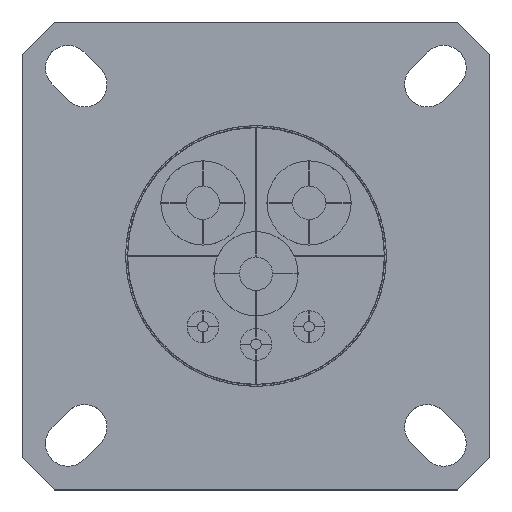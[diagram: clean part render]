
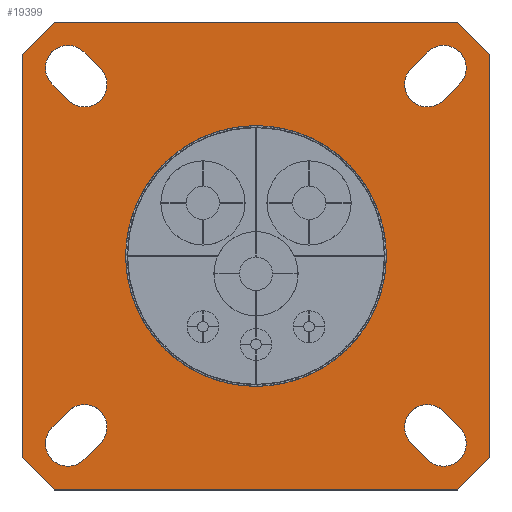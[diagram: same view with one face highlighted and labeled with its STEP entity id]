
A CAD part, top view. The second image highlights one B-rep face of the part: STEP entity #19399.
In plain terms, the highlighted planar face has unit normal (0, 0, 1).
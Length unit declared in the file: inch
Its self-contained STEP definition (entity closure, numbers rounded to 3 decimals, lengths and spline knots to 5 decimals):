
#6313=CARTESIAN_POINT('',(0.,0.,0.));
#6314=DIRECTION('',(0.,0.,1.));
#6315=DIRECTION('',(1.,0.,0.));
#6316=AXIS2_PLACEMENT_3D('',#6313,#6314,#6315);
#8366=DIRECTION('',(0.707,0.707,0.));
#8367=VECTOR('',#8366,0.128);
#8368=CARTESIAN_POINT('',(-0.6615,0.57099,0.));
#8369=LINE('',#8368,#8367);
#8370=DIRECTION('',(1.,0.,0.));
#8371=VECTOR('',#8370,1.14198);
#8372=CARTESIAN_POINT('',(-0.57099,0.6615,0.));
#8373=LINE('',#8372,#8371);
#8374=DIRECTION('',(0.707,-0.707,0.));
#8375=VECTOR('',#8374,0.128);
#8376=CARTESIAN_POINT('',(0.57099,0.6615,0.));
#8377=LINE('',#8376,#8375);
#8378=DIRECTION('',(0.,-1.,0.));
#8379=VECTOR('',#8378,1.14198);
#8380=CARTESIAN_POINT('',(0.6615,0.57099,0.));
#8381=LINE('',#8380,#8379);
#8382=DIRECTION('',(-0.707,-0.707,0.));
#8383=VECTOR('',#8382,0.128);
#8384=CARTESIAN_POINT('',(0.6615,-0.57099,0.));
#8385=LINE('',#8384,#8383);
#8386=DIRECTION('',(-1.,0.,0.));
#8387=VECTOR('',#8386,1.14198);
#8388=CARTESIAN_POINT('',(0.57099,-0.6615,0.));
#8389=LINE('',#8388,#8387);
#8390=DIRECTION('',(-0.707,0.707,0.));
#8391=VECTOR('',#8390,0.128);
#8392=CARTESIAN_POINT('',(-0.57099,-0.6615,0.));
#8393=LINE('',#8392,#8391);
#8394=DIRECTION('',(0.,1.,0.));
#8395=VECTOR('',#8394,1.14198);
#8396=CARTESIAN_POINT('',(-0.6615,-0.57099,0.));
#8397=LINE('',#8396,#8395);
#8398=DIRECTION('',(-0.707,-0.707,0.));
#8399=VECTOR('',#8398,0.06576);
#8400=CARTESIAN_POINT('',(-0.53025,-0.43875,0.));
#8401=LINE('',#8400,#8399);
#8402=CARTESIAN_POINT('',(-0.5315,-0.5305,0.));
#8403=DIRECTION('',(0.,0.,1.));
#8404=DIRECTION('',(-0.707,0.707,0.));
#8405=AXIS2_PLACEMENT_3D('',#8402,#8403,#8404);
#8407=DIRECTION('',(0.707,0.707,0.));
#8408=VECTOR('',#8407,0.06576);
#8409=CARTESIAN_POINT('',(-0.48625,-0.57575,0.));
#8410=LINE('',#8409,#8408);
#8411=CARTESIAN_POINT('',(-0.485,-0.484,0.));
#8412=DIRECTION('',(0.,0.,1.));
#8413=DIRECTION('',(0.707,-0.707,0.));
#8414=AXIS2_PLACEMENT_3D('',#8411,#8412,#8413);
#8416=DIRECTION('',(0.707,-0.707,0.));
#8417=VECTOR('',#8416,0.06576);
#8418=CARTESIAN_POINT('',(-0.57675,0.48625,0.));
#8419=LINE('',#8418,#8417);
#8420=CARTESIAN_POINT('',(-0.485,0.485,0.));
#8421=DIRECTION('',(0.,0.,1.));
#8422=DIRECTION('',(-0.707,-0.707,0.));
#8423=AXIS2_PLACEMENT_3D('',#8420,#8421,#8422);
#8425=DIRECTION('',(-0.707,0.707,0.));
#8426=VECTOR('',#8425,0.06576);
#8427=CARTESIAN_POINT('',(-0.43975,0.53025,0.));
#8428=LINE('',#8427,#8426);
#8429=CARTESIAN_POINT('',(-0.5315,0.5315,0.));
#8430=DIRECTION('',(0.,0.,1.));
#8431=DIRECTION('',(0.707,0.707,0.));
#8432=AXIS2_PLACEMENT_3D('',#8429,#8430,#8431);
#8434=DIRECTION('',(-0.707,-0.707,0.));
#8435=VECTOR('',#8434,0.06576);
#8436=CARTESIAN_POINT('',(0.48525,0.57675,0.));
#8437=LINE('',#8436,#8435);
#8438=CARTESIAN_POINT('',(0.484,0.485,0.));
#8439=DIRECTION('',(0.,0.,1.));
#8440=DIRECTION('',(-0.707,0.707,0.));
#8441=AXIS2_PLACEMENT_3D('',#8438,#8439,#8440);
#8443=DIRECTION('',(0.707,0.707,0.));
#8444=VECTOR('',#8443,0.06576);
#8445=CARTESIAN_POINT('',(0.52925,0.43975,0.));
#8446=LINE('',#8445,#8444);
#8447=CARTESIAN_POINT('',(0.5305,0.5315,0.));
#8448=DIRECTION('',(0.,0.,1.));
#8449=DIRECTION('',(0.707,-0.707,0.));
#8450=AXIS2_PLACEMENT_3D('',#8447,#8448,#8449);
#8452=CARTESIAN_POINT('',(0.484,-0.484,0.));
#8453=DIRECTION('',(0.,0.,1.));
#8454=DIRECTION('',(0.707,0.707,0.));
#8455=AXIS2_PLACEMENT_3D('',#8452,#8453,#8454);
#8457=DIRECTION('',(0.707,-0.707,0.));
#8458=VECTOR('',#8457,0.06576);
#8459=CARTESIAN_POINT('',(0.43875,-0.52925,0.));
#8460=LINE('',#8459,#8458);
#8461=CARTESIAN_POINT('',(0.5305,-0.5305,0.));
#8462=DIRECTION('',(0.,0.,1.));
#8463=DIRECTION('',(-0.707,-0.707,0.));
#8464=AXIS2_PLACEMENT_3D('',#8461,#8462,#8463);
#8466=DIRECTION('',(-0.707,0.707,0.));
#8467=VECTOR('',#8466,0.06576);
#8468=CARTESIAN_POINT('',(0.57575,-0.48525,0.));
#8469=LINE('',#8468,#8467);
#8670=CARTESIAN_POINT('',(0.,0.,0.));
#8671=DIRECTION('',(0.,0.,1.));
#8672=DIRECTION('',(-1.,0.,0.));
#8673=AXIS2_PLACEMENT_3D('',#8670,#8671,#8672);
#15146=CARTESIAN_POINT('',(-0.6615,0.57099,0.));
#15147=CARTESIAN_POINT('',(-0.57099,0.6615,0.));
#15148=VERTEX_POINT('',#15146);
#15149=VERTEX_POINT('',#15147);
#15150=CARTESIAN_POINT('',(0.57099,0.6615,0.));
#15151=VERTEX_POINT('',#15150);
#15152=CARTESIAN_POINT('',(0.6615,0.57099,0.));
#15153=VERTEX_POINT('',#15152);
#15154=CARTESIAN_POINT('',(0.6615,-0.57099,0.));
#15155=VERTEX_POINT('',#15154);
#15156=CARTESIAN_POINT('',(0.57099,-0.6615,0.));
#15157=VERTEX_POINT('',#15156);
#15158=CARTESIAN_POINT('',(-0.57099,-0.6615,0.));
#15159=VERTEX_POINT('',#15158);
#15160=CARTESIAN_POINT('',(-0.6615,-0.57099,0.));
#15161=VERTEX_POINT('',#15160);
#15162=CARTESIAN_POINT('',(-0.53025,-0.43875,0.));
#15163=CARTESIAN_POINT('',(-0.57675,-0.48525,0.));
#15164=VERTEX_POINT('',#15162);
#15165=VERTEX_POINT('',#15163);
#15166=CARTESIAN_POINT('',(-0.48625,-0.57575,0.));
#15167=VERTEX_POINT('',#15166);
#15168=CARTESIAN_POINT('',(-0.43975,-0.52925,0.));
#15169=VERTEX_POINT('',#15168);
#15170=CARTESIAN_POINT('',(-0.57675,0.48625,0.));
#15171=CARTESIAN_POINT('',(-0.53025,0.43975,0.));
#15172=VERTEX_POINT('',#15170);
#15173=VERTEX_POINT('',#15171);
#15174=CARTESIAN_POINT('',(-0.43975,0.53025,0.));
#15175=VERTEX_POINT('',#15174);
#15176=CARTESIAN_POINT('',(-0.48625,0.57675,0.));
#15177=VERTEX_POINT('',#15176);
#15178=CARTESIAN_POINT('',(0.48525,0.57675,0.));
#15179=CARTESIAN_POINT('',(0.43875,0.53025,0.));
#15180=VERTEX_POINT('',#15178);
#15181=VERTEX_POINT('',#15179);
#15182=CARTESIAN_POINT('',(0.52925,0.43975,0.));
#15183=VERTEX_POINT('',#15182);
#15184=CARTESIAN_POINT('',(0.57575,0.48625,0.));
#15185=VERTEX_POINT('',#15184);
#15186=CARTESIAN_POINT('',(0.52925,-0.43875,0.));
#15187=CARTESIAN_POINT('',(0.43875,-0.52925,0.));
#15188=VERTEX_POINT('',#15186);
#15189=VERTEX_POINT('',#15187);
#15190=CARTESIAN_POINT('',(0.48525,-0.57575,0.));
#15191=VERTEX_POINT('',#15190);
#15192=CARTESIAN_POINT('',(0.57575,-0.48525,0.));
#15193=VERTEX_POINT('',#15192);
#15242=CARTESIAN_POINT('',(0.368,0.,0.));
#15243=CARTESIAN_POINT('',(-0.368,0.,0.));
#15244=VERTEX_POINT('',#15242);
#15245=VERTEX_POINT('',#15243);
#19331=CARTESIAN_POINT('',(0.,0.,0.));
#19332=DIRECTION('',(0.,0.,-1.));
#19333=DIRECTION('',(0.,-1.,0.));
#19334=AXIS2_PLACEMENT_3D('',#19331,#19332,#19333);
#19335=PLANE('',#19334);
#19337=ORIENTED_EDGE('',*,*,#19336,.T.);
#19339=ORIENTED_EDGE('',*,*,#19338,.T.);
#19341=ORIENTED_EDGE('',*,*,#19340,.T.);
#19343=ORIENTED_EDGE('',*,*,#19342,.T.);
#19345=ORIENTED_EDGE('',*,*,#19344,.T.);
#19347=ORIENTED_EDGE('',*,*,#19346,.T.);
#19349=ORIENTED_EDGE('',*,*,#19348,.T.);
#19351=ORIENTED_EDGE('',*,*,#19350,.T.);
#19352=EDGE_LOOP('',(#19337,#19339,#19341,#19343,#19345,#19347,#19349,#19351));
#19353=FACE_OUTER_BOUND('',#19352,.F.);
#19355=ORIENTED_EDGE('',*,*,#19354,.T.);
#19357=ORIENTED_EDGE('',*,*,#19356,.T.);
#19359=ORIENTED_EDGE('',*,*,#19358,.T.);
#19361=ORIENTED_EDGE('',*,*,#19360,.T.);
#19362=EDGE_LOOP('',(#19355,#19357,#19359,#19361));
#19363=FACE_BOUND('',#19362,.F.);
#19365=ORIENTED_EDGE('',*,*,#19364,.T.);
#19367=ORIENTED_EDGE('',*,*,#19366,.T.);
#19369=ORIENTED_EDGE('',*,*,#19368,.T.);
#19371=ORIENTED_EDGE('',*,*,#19370,.T.);
#19372=EDGE_LOOP('',(#19365,#19367,#19369,#19371));
#19373=FACE_BOUND('',#19372,.F.);
#19375=ORIENTED_EDGE('',*,*,#19374,.T.);
#19377=ORIENTED_EDGE('',*,*,#19376,.T.);
#19379=ORIENTED_EDGE('',*,*,#19378,.T.);
#19381=ORIENTED_EDGE('',*,*,#19380,.T.);
#19382=EDGE_LOOP('',(#19375,#19377,#19379,#19381));
#19383=FACE_BOUND('',#19382,.F.);
#19385=ORIENTED_EDGE('',*,*,#19384,.T.);
#19387=ORIENTED_EDGE('',*,*,#19386,.T.);
#19389=ORIENTED_EDGE('',*,*,#19388,.T.);
#19391=ORIENTED_EDGE('',*,*,#19390,.T.);
#19392=EDGE_LOOP('',(#19385,#19387,#19389,#19391));
#19393=FACE_BOUND('',#19392,.F.);
#19394=ORIENTED_EDGE('',*,*,#18663,.T.);
#19396=ORIENTED_EDGE('',*,*,#19395,.T.);
#19397=EDGE_LOOP('',(#19394,#19396));
#19398=FACE_BOUND('',#19397,.F.);
#19399=ADVANCED_FACE('',(#19353,#19363,#19373,#19383,#19393,#19398),#19335,.F.);
#6317=CIRCLE('',#6316,0.368);
#8406=CIRCLE('',#8405,0.064);
#8415=CIRCLE('',#8414,0.064);
#8424=CIRCLE('',#8423,0.064);
#8433=CIRCLE('',#8432,0.064);
#8442=CIRCLE('',#8441,0.064);
#8451=CIRCLE('',#8450,0.064);
#8456=CIRCLE('',#8455,0.064);
#8465=CIRCLE('',#8464,0.064);
#8674=CIRCLE('',#8673,0.368);
#18663=EDGE_CURVE('',#15244,#15245,#6317,.T.);
#19336=EDGE_CURVE('',#15148,#15149,#8369,.T.);
#19338=EDGE_CURVE('',#15149,#15151,#8373,.T.);
#19340=EDGE_CURVE('',#15151,#15153,#8377,.T.);
#19342=EDGE_CURVE('',#15153,#15155,#8381,.T.);
#19344=EDGE_CURVE('',#15155,#15157,#8385,.T.);
#19346=EDGE_CURVE('',#15157,#15159,#8389,.T.);
#19348=EDGE_CURVE('',#15159,#15161,#8393,.T.);
#19350=EDGE_CURVE('',#15161,#15148,#8397,.T.);
#19354=EDGE_CURVE('',#15164,#15165,#8401,.T.);
#19356=EDGE_CURVE('',#15165,#15167,#8406,.T.);
#19358=EDGE_CURVE('',#15167,#15169,#8410,.T.);
#19360=EDGE_CURVE('',#15169,#15164,#8415,.T.);
#19364=EDGE_CURVE('',#15172,#15173,#8419,.T.);
#19366=EDGE_CURVE('',#15173,#15175,#8424,.T.);
#19368=EDGE_CURVE('',#15175,#15177,#8428,.T.);
#19370=EDGE_CURVE('',#15177,#15172,#8433,.T.);
#19374=EDGE_CURVE('',#15180,#15181,#8437,.T.);
#19376=EDGE_CURVE('',#15181,#15183,#8442,.T.);
#19378=EDGE_CURVE('',#15183,#15185,#8446,.T.);
#19380=EDGE_CURVE('',#15185,#15180,#8451,.T.);
#19384=EDGE_CURVE('',#15188,#15189,#8456,.T.);
#19386=EDGE_CURVE('',#15189,#15191,#8460,.T.);
#19388=EDGE_CURVE('',#15191,#15193,#8465,.T.);
#19390=EDGE_CURVE('',#15193,#15188,#8469,.T.);
#19395=EDGE_CURVE('',#15245,#15244,#8674,.T.);
